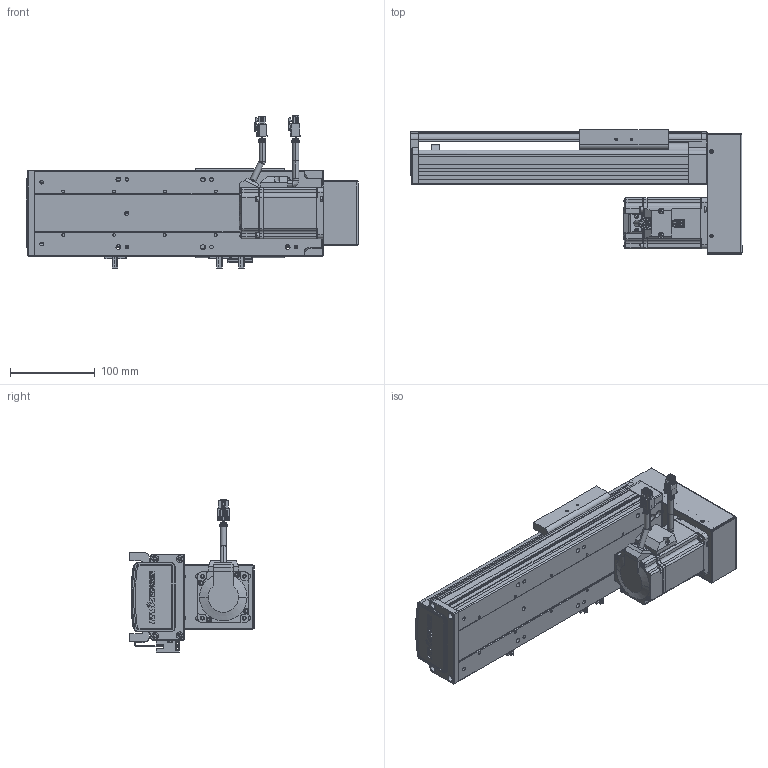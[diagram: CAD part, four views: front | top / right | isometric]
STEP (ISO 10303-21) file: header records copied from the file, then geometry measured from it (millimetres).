
FILE_DESCRIPTION (( 'STEP AP203' ), '1' );
FILE_NAME ('RY100S-L1620-300-BK(15双轨).SLDASM_150.step', '2021-02-20T08:22:42', ( '盈信电脑' ), ( '东莞市道滘镇水果街19号' ), 'SwSTEP 2.0', 'SolidWorks 2012', '' );
FILE_SCHEMA (( 'CONFIG_CONTROL_DESIGN' ));
Products named in the file (26): RY100S-狟殏萇儂郪; RY100S-L1620-300-BK(15邧寢).SLDASM_150; 肮祭湍5M遵15笚酗260; RY100S下折电机安装板（15双轨）; 侂狟200W萇儂; 6; 7; 5; 4; RY80肮祭湍覃踡啣; 1; 3; 2; 3M30喘15遵; RY100S-絳寢EGH15-350-LK(腴郪15邧寢)_150; RY100S狟殏萇儂欶(15邧寢); RY80肮祭湍芢雄輸; 滅袉蝶18-24; RY100綴裔啣; RY100S转折电机端支撑座(15双轨); RY100俋离覜茼え; 滅袉蝶18-10; 覜茼ん672; RY100S铝滑块（15双轨单滑块）底组装导轨; RY100S-300-LK转折型材上盖(15双轨)_150; RY100S-350-LK型材底座(低组15双轨)_150
Assembly tree (28 placements, depth 4):
  RY100S-L1620-300-BK(15邧寢).SLDASM_150
    RY100S-350-LK型材底座(低组15双轨)_150
    RY100S-300-LK转折型材上盖(15双轨)_150
    RY100S铝滑块（15双轨单滑块）底组装导轨
    覜茼ん672  x3
    滅袉蝶18-10
    RY100俋离覜茼え
    RY100S转折电机端支撑座(15双轨)
    滅袉蝶18-24
    RY100綴裔啣
    RY100S-絳寢EGH15-350-LK(腴郪15邧寢)_150
    RY100S-狟殏萇儂郪
      RY80肮祭湍芢雄輸  x2
      RY100S狟殏萇儂欶(15邧寢)
      3M30喘15遵
      RY80肮祭湍覃踡啣
      侂狟200W萇儂
        1
        2
        3
        4
        5
        6
        7
      肮祭湍5M遵15笚酗260
      RY100S下折电机安装板（15双轨）
Bounding box: 392 x 147 x 179.5 mm (x, y, z)
Volume: 1381831.1 mm3; surface area: 500476.8 mm2
Topology: 26 solids, 26 shells, 3099 faces, 8301 edges, 5344 vertices
Faces by surface type: plane 1671, cylinder 1145, cone 169, bspline 114
Entity records: 99975 total; most frequent: CARTESIAN_POINT 24443, ORIENTED_EDGE 15306, DIRECTION 14956, EDGE_CURVE 7653, AXIS2_PLACEMENT_3D 5063, VERTEX_POINT 4980, LINE 4830, VECTOR 4830
